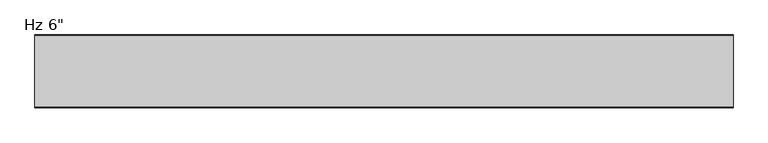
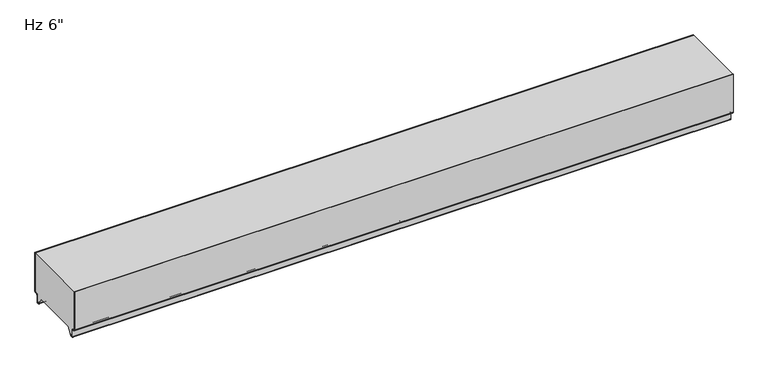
"""IFC4 building model written with IfcOpenShell, lengths in millimetres: plate geometry."""

from ifc_helpers import new_model, si_unit, frame, origin, place, context, project, spatial, polyline, circle_curve, source, transform, mapped, element, save
from ifc_brep_helpers import plane_surface, cylinder_surface, revolved_surface, advanced_brep


def plate_8ed5a4c8(model_context):
    return source(origin(), model_context, "Body", "AdvancedBrep", [
        advanced_brep(
        [(-730.0, -2.9776189, 3.8501063), (-730.0, -1.0007088, 5.8270163), (-730.0, -1.0007088, 94.95), (-730.0, 0.0, 94.95), (-730.0, 0.0, 5.8272211), (-730.0, -2.977286, 2.8499526), (-730.0, -5.2691698, 2.8499526), (-730.0, -8.2464384, -0.1273159), (-730.0, -8.2464384, -15.7237419), (-730.0, -9.8343149, -17.3116185), (-730.0, -12.9058636, -17.3116185), (-730.0, -14.4937401, -15.7237419), (-730.0, -14.4937401, -13.3687064), (-730.0, -13.4937365, -13.3687064), (-730.0, -13.4937365, -15.7237374), (-730.0, -12.9058654, -16.3116086), (-730.0, -9.834334, -16.3116086), (-730.0, -9.2464768, -15.7237514), (-730.0, -9.2464768, -0.1272391), (-730.0, -5.2691315, 3.8501063), (730.0, -2.9776189, 3.8501063), (730.0, -5.2691315, 3.8501063), (730.0, -9.2464768, -0.1272391), (730.0, -9.2464768, -15.7237514), (730.0, -9.834334, -16.3116086), (730.0, -12.9058654, -16.3116086), (730.0, -13.4937365, -15.7237374), (730.0, -13.4937365, -13.3687064), (730.0, -14.4937401, -13.3687064), (730.0, -14.4937401, -15.7237419), (730.0, -12.9058636, -17.3116185), (730.0, -9.8343149, -17.3116185), (730.0, -8.2464384, -15.7237419), (730.0, -8.2464384, -0.1273159), (730.0, -5.2691698, 2.8499526), (730.0, -2.977286, 2.8499526), (730.0, -1.75e-05, 5.8272211), (730.0, 0.0, 94.95), (730.0, -1.0007088, 94.95), (730.0, -1.0007088, 5.8270163)],
        [
            (0, 1, circle_curve(frame((-730.0, -2.9776189, 5.8270163), z_axis=(1.0, 0.0, 0.0), x_axis=(0.0, 1.0, 0.0)), 1.9769101)),
            (1, 2),
            (2, 3),
            (3, 4),
            (4, 5, circle_curve(frame((-730.0, -2.977286, 5.8272211), z_axis=(-1.0, 0.0, 0.0), x_axis=(0.0, 1.0, 0.0)), 2.9772685)),
            (5, 6),
            (6, 7, circle_curve(frame((-730.0, -5.2691698, -0.1273159), z_axis=(1.0, 0.0, 0.0), x_axis=(0.0, 1.0, 0.0)), 2.9772685)),
            (7, 8),
            (8, 9, circle_curve(frame((-730.0, -9.8343149, -15.7237419), z_axis=(-1.0, 0.0, 0.0), x_axis=(0.0, 1.0, 0.0)), 1.5878765)),
            (9, 10),
            (10, 11, circle_curve(frame((-730.0, -12.9058636, -15.7237419), z_axis=(-1.0, 0.0, 0.0), x_axis=(0.0, 1.0, 0.0)), 1.5878765)),
            (11, 12),
            (12, 13),
            (13, 14),
            (14, 15, circle_curve(frame((-730.0, -12.9058654, -15.7237374), z_axis=(1.0, 0.0, 0.0), x_axis=(0.0, 1.0, 0.0)), 0.5878711)),
            (15, 16),
            (16, 17, circle_curve(frame((-730.0, -9.834334, -15.7237514), z_axis=(1.0, 0.0, 0.0), x_axis=(0.0, 1.0, 0.0)), 0.5878572)),
            (17, 18),
            (18, 19, circle_curve(frame((-730.0, -5.2691315, -0.1272391), z_axis=(-1.0, 0.0, 0.0), x_axis=(0.0, 1.0, 0.0)), 3.9773454)),
            (19, 0),
            (20, 21),
            (21, 22, circle_curve(frame((730.0, -5.2691315, -0.1272391), z_axis=(1.0, 0.0, 0.0), x_axis=(0.0, 1.0, 0.0)), 3.9773454)),
            (22, 23),
            (23, 24, circle_curve(frame((730.0, -9.834334, -15.7237514), z_axis=(-1.0, 0.0, 0.0), x_axis=(0.0, 1.0, 0.0)), 0.5878572)),
            (24, 25),
            (25, 26, circle_curve(frame((730.0, -12.9058654, -15.7237374), z_axis=(-1.0, 0.0, 0.0), x_axis=(0.0, 1.0, 0.0)), 0.5878711)),
            (26, 27),
            (27, 28),
            (28, 29),
            (29, 30, circle_curve(frame((730.0, -12.9058636, -15.7237419), z_axis=(1.0, 0.0, 0.0), x_axis=(0.0, 1.0, 0.0)), 1.5878765)),
            (30, 31),
            (31, 32, circle_curve(frame((730.0, -9.8343149, -15.7237419), z_axis=(1.0, 0.0, 0.0), x_axis=(0.0, 1.0, 0.0)), 1.5878765)),
            (32, 33),
            (33, 34, circle_curve(frame((730.0, -5.2691698, -0.1273159), z_axis=(-1.0, 0.0, 0.0), x_axis=(0.0, 1.0, 0.0)), 2.9772685)),
            (34, 35),
            (35, 36, circle_curve(frame((730.0, -2.977286, 5.8272211), z_axis=(1.0, 0.0, 0.0), x_axis=(0.0, 1.0, 0.0)), 2.9772685)),
            (36, 37),
            (37, 38),
            (38, 39),
            (39, 20, circle_curve(frame((730.0, -2.9776189, 5.8270163), z_axis=(-1.0, 0.0, 0.0), x_axis=(0.0, 1.0, 0.0)), 1.9769101)),
            (2, 38),
            (37, 3),
            (19, 21),
            (20, 0),
            (18, 22),
            (17, 23),
            (16, 24),
            (15, 25),
            (14, 26),
            (13, 27),
            (12, 28),
            (11, 29),
            (10, 30),
            (9, 31),
            (8, 32),
            (7, 33),
            (6, 34),
            (5, 35),
            (4, 36),
            (1, 39),
        ],
        [
            plane_surface(frame((-730.0, 0.0, 576.2625), z_axis=(-1.0, 0.0, 0.0), x_axis=(0.0, 1.0, 0.0))),
            plane_surface(frame((730.0, 0.0, 576.2625), z_axis=(1.0, 0.0, 0.0), x_axis=(0.0, 1.0, 0.0))),
            plane_surface(frame((730.0, 10.0, 94.95), z_axis=(0.0, 0.0, 1.0), x_axis=(-1.0, 0.0, 0.0))),
            plane_surface(frame((-730.0, -2.9776189, 3.8501063), z_axis=(0.0, 0.0, 1.0), x_axis=(1.0, 0.0, 0.0))),
            cylinder_surface(frame((-730.0, -5.2691315, -0.1272391), z_axis=(-1.0, 0.0, 0.0), x_axis=(0.0, 1.0, 0.0)), 3.9773454),
            plane_surface(frame((-730.0, -9.2464768, -0.1272391), z_axis=(0.0, -1.0, 0.0), x_axis=(1.0, 0.0, 0.0))),
            revolved_surface(polyline([(730.0, -9.2464768, -15.7237514), (-730.0, -9.2464768, -15.7237514)]), (-730.0, -9.834334, -15.7237514), (1.0, 0.0, 0.0)),
            plane_surface(frame((-730.0, -9.834334, -16.3116086), z_axis=(0.0, 0.0, 1.0), x_axis=(1.0, 0.0, 0.0))),
            revolved_surface(polyline([(730.0, -12.3179943, -15.7237374), (-730.0, -12.3179943, -15.7237374)]), (-730.0, -12.9058654, -15.7237374), (1.0, 0.0, 0.0)),
            plane_surface(frame((-730.0, -13.4937365, -15.7237374), z_axis=(0.0, 1.0, 0.0), x_axis=(1.0, 0.0, 0.0))),
            plane_surface(frame((-730.0, -13.4937365, -13.3687064), z_axis=(0.0, 0.0, 1.0), x_axis=(1.0, 0.0, 0.0))),
            plane_surface(frame((-730.0, -14.4937401, -13.3687064), z_axis=(0.0, -1.0, 0.0), x_axis=(1.0, 0.0, 0.0))),
            cylinder_surface(frame((-730.0, -12.9058636, -15.7237419), z_axis=(-1.0, 0.0, 0.0), x_axis=(0.0, 1.0, 0.0)), 1.5878765),
            plane_surface(frame((-730.0, -12.9058636, -17.3116185), z_axis=(0.0, 0.0, -1.0), x_axis=(1.0, 0.0, 0.0))),
            cylinder_surface(frame((-730.0, -9.8343149, -15.7237419), z_axis=(-1.0, 0.0, 0.0), x_axis=(0.0, 1.0, 0.0)), 1.5878765),
            plane_surface(frame((-730.0, -8.2464384, -15.7237419), z_axis=(0.0, 1.0, 0.0), x_axis=(1.0, 0.0, 0.0))),
            revolved_surface(polyline([(730.0, -2.2919013, -0.1273159), (-730.0, -2.2919013, -0.1273159)]), (-730.0, -5.2691698, -0.1273159), (1.0, 0.0, 0.0)),
            plane_surface(frame((-730.0, -5.2691698, 2.8499526), z_axis=(0.0, 0.0, -1.0), x_axis=(1.0, 0.0, 0.0))),
            cylinder_surface(frame((-730.0, -2.977286, 5.8272211), z_axis=(-1.0, 0.0, 0.0), x_axis=(0.0, 1.0, 0.0)), 2.9772685),
            plane_surface(frame((-730.0, 0.0, 5.8272211), z_axis=(0.0, 1.0, 0.0), x_axis=(1.0, 0.0, 0.0))),
            plane_surface(frame((-730.0, -1.0007088, 1150.812837), z_axis=(0.0, -1.0, 0.0), x_axis=(1.0, 0.0, 0.0))),
            revolved_surface(polyline([(730.0, -1.0007088, 5.8270163), (-730.0, -1.0007088, 5.8270163)]), (-730.0, -2.9776189, 5.8270163), (1.0, 0.0, 0.0)),
        ],
        [
            (0, [[1, 2, 3, 4, 5, 6, 7, 8, 9, 10, 11, 12, 13, 14, 15, 16, 17, 18, 19, 20]]),
            (1, [[21, 22, 23, 24, 25, 26, 27, 28, 29, 30, 31, 32, 33, 34, 35, 36, 37, 38, 39, 40]]),
            (2, [[41, -38, 42, -3]]),
            (3, [[43, -21, 44, -20]]),
            (4, [[45, -22, -43, -19]]),
            (5, [[46, -23, -45, -18]]),
            (6, [[47, -24, -46, -17]]),
            (7, [[48, -25, -47, -16]]),
            (8, [[49, -26, -48, -15]]),
            (9, [[50, -27, -49, -14]]),
            (10, [[51, -28, -50, -13]]),
            (11, [[52, -29, -51, -12]]),
            (12, [[53, -30, -52, -11]]),
            (13, [[54, -31, -53, -10]]),
            (14, [[55, -32, -54, -9]]),
            (15, [[56, -33, -55, -8]]),
            (16, [[57, -34, -56, -7]]),
            (17, [[58, -35, -57, -6]]),
            (18, [[59, -36, -58, -5]]),
            (19, [[-4, -42, -37, -59]]),
            (20, [[-39, -41, -2, 60]]),
            (21, [[-44, -40, -60, -1]]),
        ],
    ),
        advanced_brep(
        [(-730.0, -149.4223811, 3.8501063), (-730.0, -147.1308685, 3.8501063), (-730.0, -143.1535232, -0.1272391), (-730.0, -143.1535232, -15.7237514), (-730.0, -142.565666, -16.3116086), (-730.0, -139.4941346, -16.3116086), (-730.0, -138.9062635, -15.7237374), (-730.0, -138.9062635, -13.3687064), (-730.0, -137.9062599, -13.3687064), (-730.0, -137.9062599, -15.7237419), (-730.0, -139.4941364, -17.3116185), (-730.0, -142.5656851, -17.3116185), (-730.0, -144.1535616, -15.7237419), (-730.0, -144.1535616, -0.1273159), (-730.0, -147.1308302, 2.8499526), (-730.0, -149.422714, 2.8499526), (-730.0, -152.3999825, 5.8272211), (-730.0, -152.4, 94.95), (-730.0, -151.3992912, 94.95), (-730.0, -151.3992912, 5.8270163), (730.0, -149.4223811, 3.8501063), (730.0, -151.3992912, 5.8270163), (730.0, -151.3992912, 94.95), (730.0, -152.4, 94.95), (730.0, -152.4, 5.8272211), (730.0, -149.422714, 2.8499526), (730.0, -147.1308302, 2.8499526), (730.0, -144.1535616, -0.1273159), (730.0, -144.1535616, -15.7237419), (730.0, -142.5656851, -17.3116185), (730.0, -139.4941364, -17.3116185), (730.0, -137.9062599, -15.7237419), (730.0, -137.9062599, -13.3687064), (730.0, -138.9062635, -13.3687064), (730.0, -138.9062635, -15.7237374), (730.0, -139.4941346, -16.3116086), (730.0, -142.565666, -16.3116086), (730.0, -143.1535232, -15.7237514), (730.0, -143.1535232, -0.1272391), (730.0, -147.1308685, 3.8501063)],
        [
            (0, 1),
            (1, 2, circle_curve(frame((-730.0, -147.1308685, -0.1272391), z_axis=(-1.0, 0.0, 0.0), x_axis=(0.0, 0.0, -1.0)), 3.9773454)),
            (2, 3),
            (3, 4, circle_curve(frame((-730.0, -142.565666, -15.7237514), z_axis=(1.0, 0.0, 0.0), x_axis=(0.0, 0.0, -1.0)), 0.5878572)),
            (4, 5),
            (5, 6, circle_curve(frame((-730.0, -139.4941346, -15.7237374), z_axis=(1.0, 0.0, 0.0), x_axis=(0.0, 0.0, -1.0)), 0.5878711)),
            (6, 7),
            (7, 8),
            (8, 9),
            (9, 10, circle_curve(frame((-730.0, -139.4941364, -15.7237419), z_axis=(-1.0, 0.0, 0.0), x_axis=(0.0, 0.0, -1.0)), 1.5878765)),
            (10, 11),
            (11, 12, circle_curve(frame((-730.0, -142.5656851, -15.7237419), z_axis=(-1.0, 0.0, 0.0), x_axis=(0.0, 0.0, -1.0)), 1.5878765)),
            (12, 13),
            (13, 14, circle_curve(frame((-730.0, -147.1308302, -0.1273159), z_axis=(1.0, 0.0, 0.0), x_axis=(0.0, 0.0, -1.0)), 2.9772685)),
            (14, 15),
            (15, 16, circle_curve(frame((-730.0, -149.422714, 5.8272211), z_axis=(-1.0, 0.0, 0.0), x_axis=(0.0, 0.0, -1.0)), 2.9772685)),
            (16, 17),
            (17, 18),
            (18, 19),
            (19, 0, circle_curve(frame((-730.0, -149.4223811, 5.8270163), z_axis=(1.0, 0.0, 0.0), x_axis=(0.0, 0.0, -1.0)), 1.9769101)),
            (20, 21, circle_curve(frame((730.0, -149.4223811, 5.8270163), z_axis=(-1.0, 0.0, 0.0), x_axis=(0.0, 0.0, -1.0)), 1.9769101)),
            (21, 22),
            (22, 23),
            (23, 24),
            (24, 25, circle_curve(frame((730.0, -149.422714, 5.8272211), z_axis=(1.0, 0.0, 0.0), x_axis=(0.0, 0.0, -1.0)), 2.9772685)),
            (25, 26),
            (26, 27, circle_curve(frame((730.0, -147.1308302, -0.1273159), z_axis=(-1.0, 0.0, 0.0), x_axis=(0.0, 0.0, -1.0)), 2.9772685)),
            (27, 28),
            (28, 29, circle_curve(frame((730.0, -142.5656851, -15.7237419), z_axis=(1.0, 0.0, 0.0), x_axis=(0.0, 0.0, -1.0)), 1.5878765)),
            (29, 30),
            (30, 31, circle_curve(frame((730.0, -139.4941364, -15.7237419), z_axis=(1.0, 0.0, 0.0), x_axis=(0.0, 0.0, -1.0)), 1.5878765)),
            (31, 32),
            (32, 33),
            (33, 34),
            (34, 35, circle_curve(frame((730.0, -139.4941346, -15.7237374), z_axis=(-1.0, 0.0, 0.0), x_axis=(0.0, 0.0, -1.0)), 0.5878711)),
            (35, 36),
            (36, 37, circle_curve(frame((730.0, -142.565666, -15.7237514), z_axis=(-1.0, 0.0, 0.0), x_axis=(0.0, 0.0, -1.0)), 0.5878572)),
            (37, 38),
            (38, 39, circle_curve(frame((730.0, -147.1308685, -0.1272391), z_axis=(1.0, 0.0, 0.0), x_axis=(0.0, 0.0, -1.0)), 3.9773454)),
            (39, 20),
            (17, 23),
            (22, 18),
            (19, 21),
            (20, 0),
            (16, 24),
            (15, 25),
            (14, 26),
            (13, 27),
            (12, 28),
            (11, 29),
            (10, 30),
            (9, 31),
            (8, 32),
            (7, 33),
            (6, 34),
            (5, 35),
            (4, 36),
            (3, 37),
            (2, 38),
            (1, 39),
        ],
        [
            plane_surface(frame((-730.0, -152.4, 576.2625), z_axis=(-1.0, 0.0, 0.0), x_axis=(0.0, -1.0, 0.0))),
            plane_surface(frame((730.0, -152.4, 576.2625), z_axis=(1.0, 0.0, 0.0), x_axis=(0.0, -1.0, 0.0))),
            plane_surface(frame((730.0, 10.0, 94.95), z_axis=(0.0, 0.0, 1.0), x_axis=(-1.0, 0.0, 0.0))),
            revolved_surface(polyline([(730.0, -149.4223811, 3.8501062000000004), (-730.0, -149.4223811, 3.8501062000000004)]), (-730.0, -149.4223811, 5.8270163), (1.0, 0.0, 0.0)),
            plane_surface(frame((-730.0, -151.3992912, 5.8270163), z_axis=(0.0, 1.0, 0.0), x_axis=(1.0, 0.0, 0.0))),
            plane_surface(frame((-730.0, -152.4, 1150.8100652), z_axis=(0.0, -1.0, 0.0), x_axis=(1.0, 0.0, 0.0))),
            cylinder_surface(frame((-730.0, -149.422714, 5.8272211), z_axis=(-1.0, 0.0, 0.0), x_axis=(0.0, 0.0, -1.0)), 2.9772685),
            plane_surface(frame((-730.0, -149.422714, 2.8499526), z_axis=(0.0, 0.0, -1.0), x_axis=(1.0, 0.0, 0.0))),
            revolved_surface(polyline([(730.0, -147.1308302, -3.1045844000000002), (-730.0, -147.1308302, -3.1045844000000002)]), (-730.0, -147.1308302, -0.1273159), (1.0, 0.0, 0.0)),
            plane_surface(frame((-730.0, -144.1535616, -0.1273159), z_axis=(0.0, -1.0, 0.0), x_axis=(1.0, 0.0, 0.0))),
            cylinder_surface(frame((-730.0, -142.5656851, -15.7237419), z_axis=(-1.0, 0.0, 0.0), x_axis=(0.0, 0.0, -1.0)), 1.5878765),
            plane_surface(frame((-730.0, -142.5656851, -17.3116185), z_axis=(0.0, 0.0, -1.0), x_axis=(1.0, 0.0, 0.0))),
            cylinder_surface(frame((-730.0, -139.4941364, -15.7237419), z_axis=(-1.0, 0.0, 0.0), x_axis=(0.0, 0.0, -1.0)), 1.5878765),
            plane_surface(frame((-730.0, -137.9062599, -15.7237419), z_axis=(0.0, 1.0, 0.0), x_axis=(1.0, 0.0, 0.0))),
            plane_surface(frame((-730.0, -137.9062599, -13.3687064), z_axis=(0.0, 0.0, 1.0), x_axis=(1.0, 0.0, 0.0))),
            plane_surface(frame((-730.0, -138.9062635, -13.3687064), z_axis=(0.0, -1.0, 0.0), x_axis=(1.0, 0.0, 0.0))),
            revolved_surface(polyline([(730.0, -139.4941346, -16.3116085), (-730.0, -139.4941346, -16.3116085)]), (-730.0, -139.4941346, -15.7237374), (1.0, 0.0, 0.0)),
            plane_surface(frame((-730.0, -139.4941346, -16.3116086), z_axis=(0.0, 0.0, 1.0), x_axis=(1.0, 0.0, 0.0))),
            revolved_surface(polyline([(730.0, -142.565666, -16.3116086), (-730.0, -142.565666, -16.3116086)]), (-730.0, -142.565666, -15.7237514), (1.0, 0.0, 0.0)),
            plane_surface(frame((-730.0, -143.1535232, -15.7237514), z_axis=(0.0, 1.0, 0.0), x_axis=(1.0, 0.0, 0.0))),
            cylinder_surface(frame((-730.0, -147.1308685, -0.1272391), z_axis=(-1.0, 0.0, 0.0), x_axis=(0.0, 0.0, -1.0)), 3.9773454),
            plane_surface(frame((-730.0, -147.1308685, 3.8501063), z_axis=(0.0, 0.0, 1.0), x_axis=(1.0, 0.0, 0.0))),
        ],
        [
            (0, [[1, 2, 3, 4, 5, 6, 7, 8, 9, 10, 11, 12, 13, 14, 15, 16, 17, 18, 19, 20]]),
            (1, [[21, 22, 23, 24, 25, 26, 27, 28, 29, 30, 31, 32, 33, 34, 35, 36, 37, 38, 39, 40]]),
            (2, [[41, -23, 42, -18]]),
            (3, [[43, -21, 44, -20]]),
            (4, [[-19, -42, -22, -43]]),
            (5, [[-24, -41, -17, 45]]),
            (6, [[46, -25, -45, -16]]),
            (7, [[47, -26, -46, -15]]),
            (8, [[48, -27, -47, -14]]),
            (9, [[49, -28, -48, -13]]),
            (10, [[50, -29, -49, -12]]),
            (11, [[51, -30, -50, -11]]),
            (12, [[52, -31, -51, -10]]),
            (13, [[53, -32, -52, -9]]),
            (14, [[54, -33, -53, -8]]),
            (15, [[55, -34, -54, -7]]),
            (16, [[56, -35, -55, -6]]),
            (17, [[57, -36, -56, -5]]),
            (18, [[58, -37, -57, -4]]),
            (19, [[59, -38, -58, -3]]),
            (20, [[60, -39, -59, -2]]),
            (21, [[-44, -40, -60, -1]]),
        ],
    ),
        advanced_brep(
        [(-730.0, -149.4227194, 3.8499499), (-730.0, -151.3999935, 5.8272239), (-730.0, -151.4, 94.95), (-730.0, -1.0, 94.95), (-730.0, -1.0, 5.8272239), (-730.0, -2.9772806, 3.8499499), (-730.0, -5.2691705, 3.8499499), (-730.0, -9.2464377, -0.1273173), (-730.0, -9.2464377, -15.7237417), (-730.0, -9.8343146, -16.3116186), (-730.0, -12.9058635, -16.3116186), (-730.0, -13.4937402, -15.723742), (-730.0, -13.4937402, -13.3687064), (-730.0, -14.4937402, -13.3687064), (-730.0, -14.4937402, -15.6582851), (-730.0, -23.7509135, 0.0), (-730.0, -128.6490865, 0.0), (-730.0, -137.9062598, -15.6582851), (-730.0, -137.9062598, -13.3687064), (-730.0, -138.9062598, -13.3687064), (-730.0, -138.9062598, -15.723742), (-730.0, -139.4941365, -16.3116186), (-730.0, -142.5656854, -16.3116186), (-730.0, -143.1535623, -15.7237417), (-730.0, -143.1535623, -0.1273173), (-730.0, -147.1308295, 3.8499499), (730.0, -149.4227194, 3.8499499), (730.0, -147.1308295, 3.8499499), (730.0, -143.1535623, -0.1273173), (730.0, -143.1535623, -15.7237417), (730.0, -142.5656854, -16.3116186), (730.0, -139.4941365, -16.3116186), (730.0, -138.9062598, -15.723742), (730.0, -138.9062598, -13.3687064), (730.0, -137.9062598, -13.3687064), (730.0, -137.9062598, -15.6582851), (730.0, -128.6490865, 0.0), (730.0, -23.7509179, 0.0), (730.0, -14.4937402, -15.6582851), (730.0, -14.4937402, -13.3687064), (730.0, -13.4937402, -13.3687064), (730.0, -13.4937402, -15.723742), (730.0, -12.9058635, -16.3116186), (730.0, -9.8343146, -16.3116186), (730.0, -9.2464377, -15.7237417), (730.0, -9.2464377, -0.1273173), (730.0, -5.2691705, 3.8499499), (730.0, -2.9772806, 3.8499499), (730.0, -1.0000065, 5.8272239), (730.0, -1.0, 94.95), (730.0, -151.4, 94.95), (730.0, -151.4, 5.8272239)],
        [
            (0, 1, circle_curve(frame((-730.0, -149.4227194, 5.8272239), z_axis=(-1.0, 0.0, 0.0), x_axis=(0.0, 0.0, -1.0)), 1.977274)),
            (1, 2),
            (2, 3),
            (3, 4),
            (4, 5, circle_curve(frame((-730.0, -2.9772806, 5.8272239), z_axis=(-1.0, 0.0, 0.0), x_axis=(0.0, 1.0, 0.0)), 1.977274)),
            (5, 6),
            (6, 7, circle_curve(frame((-730.0, -5.2691705, -0.1273173), z_axis=(1.0, 0.0, 0.0), x_axis=(0.0, 1.0, 0.0)), 3.9772671)),
            (7, 8),
            (8, 9, circle_curve(frame((-730.0, -9.8343146, -15.7237417), z_axis=(-1.0, 0.0, 0.0), x_axis=(0.0, 1.0, 0.0)), 0.5878769)),
            (9, 10),
            (10, 11, circle_curve(frame((-730.0, -12.9058635, -15.723742), z_axis=(-1.0, 0.0, 0.0), x_axis=(0.0, 1.0, 0.0)), 0.5878766)),
            (11, 12),
            (12, 13),
            (13, 14),
            (14, 15),
            (15, 16),
            (16, 17),
            (17, 18),
            (18, 19),
            (19, 20),
            (20, 21, circle_curve(frame((-730.0, -139.4941365, -15.723742), z_axis=(-1.0, 0.0, 0.0), x_axis=(0.0, 0.0, -1.0)), 0.5878766)),
            (21, 22),
            (22, 23, circle_curve(frame((-730.0, -142.5656854, -15.7237417), z_axis=(-1.0, 0.0, 0.0), x_axis=(0.0, 0.0, -1.0)), 0.5878769)),
            (23, 24),
            (24, 25, circle_curve(frame((-730.0, -147.1308295, -0.1273173), z_axis=(1.0, 0.0, 0.0), x_axis=(0.0, 0.0, -1.0)), 3.9772671)),
            (25, 0),
            (26, 27),
            (27, 28, circle_curve(frame((730.0, -147.1308295, -0.1273173), z_axis=(-1.0, 0.0, 0.0), x_axis=(0.0, 0.0, -1.0)), 3.9772671)),
            (28, 29),
            (29, 30, circle_curve(frame((730.0, -142.5656854, -15.7237417), z_axis=(1.0, 0.0, 0.0), x_axis=(0.0, 0.0, -1.0)), 0.5878769)),
            (30, 31),
            (31, 32, circle_curve(frame((730.0, -139.4941365, -15.723742), z_axis=(1.0, 0.0, 0.0), x_axis=(0.0, 0.0, -1.0)), 0.5878766)),
            (32, 33),
            (33, 34),
            (34, 35),
            (35, 36),
            (36, 37),
            (37, 38),
            (38, 39),
            (39, 40),
            (40, 41),
            (41, 42, circle_curve(frame((730.0, -12.9058635, -15.723742), z_axis=(1.0, 0.0, 0.0), x_axis=(0.0, 1.0, 0.0)), 0.5878766)),
            (42, 43),
            (43, 44, circle_curve(frame((730.0, -9.8343146, -15.7237417), z_axis=(1.0, 0.0, 0.0), x_axis=(0.0, 1.0, 0.0)), 0.5878769)),
            (44, 45),
            (45, 46, circle_curve(frame((730.0, -5.2691705, -0.1273173), z_axis=(-1.0, 0.0, 0.0), x_axis=(0.0, 1.0, 0.0)), 3.9772671)),
            (46, 47),
            (47, 48, circle_curve(frame((730.0, -2.9772806, 5.8272239), z_axis=(1.0, 0.0, 0.0), x_axis=(0.0, 1.0, 0.0)), 1.977274)),
            (48, 49),
            (49, 50),
            (50, 51),
            (51, 26, circle_curve(frame((730.0, -149.4227194, 5.8272239), z_axis=(1.0, 0.0, 0.0), x_axis=(0.0, 0.0, -1.0)), 1.977274)),
            (36, 16),
            (15, 37),
            (2, 50),
            (49, 3),
            (25, 27),
            (26, 0),
            (24, 28),
            (23, 29),
            (22, 30),
            (21, 31),
            (20, 32),
            (19, 33),
            (18, 34),
            (17, 35),
            (1, 51),
            (4, 48),
            (47, 5),
            (14, 38),
            (13, 39),
            (12, 40),
            (11, 41),
            (10, 42),
            (9, 43),
            (8, 44),
            (7, 45),
            (6, 46),
        ],
        [
            plane_surface(frame((-730.0, -151.4, 576.2625), z_axis=(-1.0, 0.0, 0.0), x_axis=(0.0, -1.0, 0.0))),
            plane_surface(frame((730.0, -151.4, 576.2625), z_axis=(1.0, 0.0, 0.0), x_axis=(0.0, -1.0, 0.0))),
            plane_surface(frame((-730.0, -128.6490865, 0.0), z_axis=(0.0, 0.0, -1.0), x_axis=(1.0, 0.0, 0.0))),
            plane_surface(frame((730.0, 10.0, 94.95), z_axis=(0.0, 0.0, 1.0), x_axis=(-1.0, 0.0, 0.0))),
            plane_surface(frame((-730.0, -149.4227194, 3.8499499), z_axis=(0.0, 0.0, -1.0), x_axis=(1.0, 0.0, 0.0))),
            revolved_surface(polyline([(730.0, -147.1308295, -4.1045844), (-730.0, -147.1308295, -4.1045844)]), (-730.0, -147.1308295, -0.1273173), (1.0, 0.0, 0.0)),
            plane_surface(frame((-730.0, -143.1535623, -0.1273173), z_axis=(0.0, -1.0, 0.0), x_axis=(1.0, 0.0, 0.0))),
            cylinder_surface(frame((-730.0, -142.5656854, -15.7237417), z_axis=(-1.0, 0.0, 0.0), x_axis=(0.0, 0.0, -1.0)), 0.5878769),
            plane_surface(frame((-730.0, -142.5656854, -16.3116186), z_axis=(0.0, 0.0, -1.0), x_axis=(1.0, 0.0, 0.0))),
            cylinder_surface(frame((-730.0, -139.4941365, -15.723742), z_axis=(-1.0, 0.0, 0.0), x_axis=(0.0, 0.0, -1.0)), 0.5878766),
            plane_surface(frame((-730.0, -138.9062598, -15.723742), z_axis=(0.0, 1.0, 0.0), x_axis=(1.0, 0.0, 0.0))),
            plane_surface(frame((-730.0, -138.9062598, -13.3687064), z_axis=(0.0, 0.0, -1.0), x_axis=(1.0, 0.0, 0.0))),
            plane_surface(frame((-730.0, -137.9062598, -13.3687064), z_axis=(0.0, -1.0, 0.0), x_axis=(1.0, 0.0, 0.0))),
            plane_surface(frame((-730.0, -137.9062598, -15.6582851), z_axis=(0.0, 0.8608169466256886, -0.5089147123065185), x_axis=(1.0, 0.0, 0.0))),
            plane_surface(frame((-730.0, -151.4, 1150.8100652), z_axis=(0.0, -1.0, 0.0), x_axis=(1.0, 0.0, 0.0))),
            cylinder_surface(frame((-730.0, -149.4227194, 5.8272239), z_axis=(-1.0, 0.0, 0.0), x_axis=(0.0, 0.0, -1.0)), 1.977274),
            cylinder_surface(frame((-730.0, -2.9772806, 5.8272239), z_axis=(-1.0, 0.0, 0.0), x_axis=(0.0, 1.0, 0.0)), 1.977274),
            plane_surface(frame((-730.0, -1.0, 5.8272239), z_axis=(0.0, 1.0, 0.0), x_axis=(1.0, 0.0, 0.0))),
            plane_surface(frame((-730.0, -23.7509135, 0.0), z_axis=(0.0, -0.8608169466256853, -0.5089147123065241), x_axis=(1.0, 0.0, 0.0))),
            plane_surface(frame((-730.0, -14.4937402, -15.6582851), z_axis=(0.0, 1.0, 0.0), x_axis=(1.0, 0.0, 0.0))),
            plane_surface(frame((-730.0, -14.4937402, -13.3687064), z_axis=(0.0, 0.0, -1.0), x_axis=(1.0, 0.0, 0.0))),
            plane_surface(frame((-730.0, -13.4937402, -13.3687064), z_axis=(0.0, -1.0, 0.0), x_axis=(1.0, 0.0, 0.0))),
            cylinder_surface(frame((-730.0, -12.9058635, -15.723742), z_axis=(-1.0, 0.0, 0.0), x_axis=(0.0, 1.0, 0.0)), 0.5878766),
            plane_surface(frame((-730.0, -12.9058635, -16.3116186), z_axis=(0.0, 0.0, -1.0), x_axis=(1.0, 0.0, 0.0))),
            cylinder_surface(frame((-730.0, -9.8343146, -15.7237417), z_axis=(-1.0, 0.0, 0.0), x_axis=(0.0, 1.0, 0.0)), 0.5878769),
            plane_surface(frame((-730.0, -9.2464377, -15.7237417), z_axis=(0.0, 1.0, 0.0), x_axis=(1.0, 0.0, 0.0))),
            revolved_surface(polyline([(730.0, -1.2919034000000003, -0.1273173), (-730.0, -1.2919034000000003, -0.1273173)]), (-730.0, -5.2691705, -0.1273173), (1.0, 0.0, 0.0)),
            plane_surface(frame((-730.0, -5.2691705, 3.8499499), z_axis=(0.0, 0.0, -1.0), x_axis=(1.0, 0.0, 0.0))),
        ],
        [
            (0, [[1, 2, 3, 4, 5, 6, 7, 8, 9, 10, 11, 12, 13, 14, 15, 16, 17, 18, 19, 20, 21, 22, 23, 24, 25, 26]]),
            (1, [[27, 28, 29, 30, 31, 32, 33, 34, 35, 36, 37, 38, 39, 40, 41, 42, 43, 44, 45, 46, 47, 48, 49, 50, 51, 52]]),
            (2, [[53, -16, 54, -37]]),
            (3, [[55, -50, 56, -3]]),
            (4, [[57, -27, 58, -26]]),
            (5, [[59, -28, -57, -25]]),
            (6, [[60, -29, -59, -24]]),
            (7, [[61, -30, -60, -23]]),
            (8, [[62, -31, -61, -22]]),
            (9, [[63, -32, -62, -21]]),
            (10, [[64, -33, -63, -20]]),
            (11, [[65, -34, -64, -19]]),
            (12, [[66, -35, -65, -18]]),
            (13, [[-53, -36, -66, -17]]),
            (14, [[-51, -55, -2, 67]]),
            (15, [[-58, -52, -67, -1]]),
            (16, [[68, -48, 69, -5]]),
            (17, [[-4, -56, -49, -68]]),
            (18, [[70, -38, -54, -15]]),
            (19, [[71, -39, -70, -14]]),
            (20, [[72, -40, -71, -13]]),
            (21, [[73, -41, -72, -12]]),
            (22, [[74, -42, -73, -11]]),
            (23, [[75, -43, -74, -10]]),
            (24, [[76, -44, -75, -9]]),
            (25, [[77, -45, -76, -8]]),
            (26, [[78, -46, -77, -7]]),
            (27, [[-69, -47, -78, -6]]),
        ],
    ),
    ])


if __name__ == "__main__":
    model = new_model("IFC4")
    model_context = context("Model", 3, world=origin())
    ifc_project = project(units=[si_unit("LENGTHUNIT", "METRE", prefix="MILLI")], contexts=[model_context])
    site = spatial("IfcSite", under=ifc_project)
    building = spatial("IfcBuilding", under=site)
    placement = place(None, origin())
    plate_shape = plate_8ed5a4c8(model_context)
    element("IfcPlate", 1, ObjectType="KIP-SLI-FLI-R19-CP-Hz-FL_FL : Hz 6\"", at=placement, inside=building, context=model_context, shape_type="MappedRepresentation", body=[
        mapped(plate_shape, transform((0.0, 0.0, 0.0), x_axis=(1.0, 0.0, 0.0), y_axis=(0.0, 1.0, 0.0), z_axis=(0.0, 0.0, 1.0))),
    ])
    save(model, "model.ifc")
